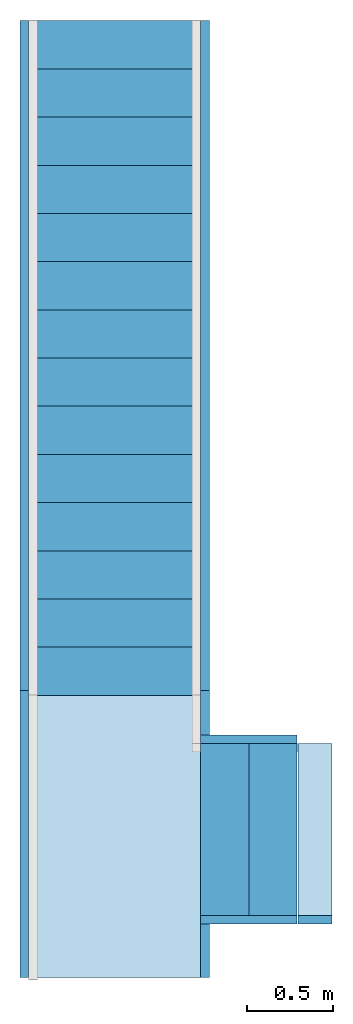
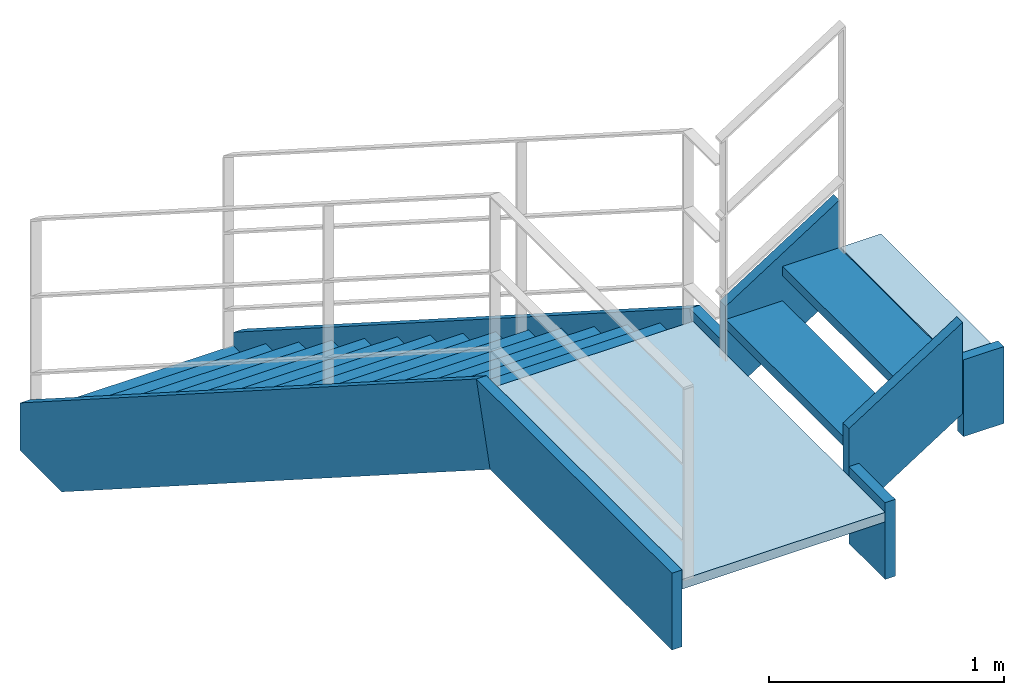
# One storey, part 1 of 2: 8 members, 2 slabs, 2 stair flights, 1 element without a shape of its own.
"""IFC2X3 building model written with IfcOpenShell, lengths in centimetres."""

import ifcopenshell
import ifcopenshell.guid

model = None  # the IFC model being written
_history = None  # IfcOwnerHistory: only IFC2X3 demands one
_inside = {}  # id of a spatial element -> (the spatial element, [elements in it])
_under = {}  # id of a project, library or spatial element -> (it, [spatial elements below it])
_declared = {}  # id of a project -> (the project, [libraries it declares])
_typed = {}  # id of a type object -> (the type object, [elements of that type])
_made_of = {}  # id of a material, layer set ... -> (it, [elements and type objects made of it])


def new_model(schema):
    """Start an empty IFC model of exactly this schema.

    Asked for "IFC4X3", IfcOpenShell would pick the latest addendum, in which some entities
    have other attributes; the version numbers below select the first issue.
    IFC2X3 requires an IfcOwnerHistory on every rooted entity: one is made here for all.
    """
    global model, _history
    if schema == "IFC4X3":
        model = ifcopenshell.file(schema_version=(4, 3, 0, 0))
    else:
        model = ifcopenshell.file(schema=schema)
    _inside.clear()
    _under.clear()
    _declared.clear()
    _typed.clear()
    _made_of.clear()
    _history = None
    if model.schema == "IFC2X3":
        org = make("IfcOrganization", Name="unknown")
        user = make(
            "IfcPersonAndOrganization",
            ThePerson=make("IfcPerson", FamilyName="unknown"),
            TheOrganization=org,
        )
        app = make(
            "IfcApplication",
            ApplicationDeveloper=org,
            Version="unknown",
            ApplicationFullName="unknown",
            ApplicationIdentifier="unknown",
        )
        _history = make(
            "IfcOwnerHistory",
            OwningUser=user,
            OwningApplication=app,
            ChangeAction="ADDED",
            CreationDate=0,
        )
    return model


def make(cls, **values):
    """One entity of the class cls with the attributes given. An attribute that is None is left unset."""
    return model.create_entity(
        cls, **{name: value for name, value in values.items() if value is not None}
    )


def entity(cls, *values):
    """Any entity or typed value of the class cls, its attributes in the order of the schema. None: left unset."""
    e = model.create_entity(cls)
    for i, value in enumerate(values):
        if value is not None:
            e[i] = value
    return e


def rooted(cls, **values):
    """An entity with a GlobalId (a new one), such as an element, a storey or a relation."""
    return make(cls, GlobalId=ifcopenshell.guid.new(), OwnerHistory=_history, **values)


def si_unit(unit_type, name, prefix=None):
    """IfcSIUnit, for example si_unit("LENGTHUNIT", "METRE", prefix="MILLI")."""
    return make("IfcSIUnit", UnitType=unit_type, Prefix=prefix, Name=name)


def converted_unit(unit_type, name, factor, base, dimensions=None, offset=None):
    """IfcConversionBasedUnit, such as the inch: factor (a typed value) times the base unit."""
    return make(
        "IfcConversionBasedUnit"
        if offset is None
        else "IfcConversionBasedUnitWithOffset",
        ConversionOffset=offset,
        Dimensions=None
        if dimensions is None
        else entity("IfcDimensionalExponents", *dimensions),
        UnitType=unit_type,
        Name=name,
        ConversionFactor=make(
            "IfcMeasureWithUnit", ValueComponent=factor, UnitComponent=base
        ),
    )


def derived_unit(unit_type, elements):
    """IfcDerivedUnit: a product of units, each with its exponent."""
    return make(
        "IfcDerivedUnit",
        Elements=[
            make("IfcDerivedUnitElement", Unit=unit, Exponent=power)
            for unit, power in elements
        ],
        UnitType=unit_type,
    )


def assignment(units):
    """IfcUnitAssignment: the units of a project."""
    return None if units is None else make("IfcUnitAssignment", Units=units)


def point(xyz):
    """IfcCartesianPoint."""
    return None if xyz is None else make("IfcCartesianPoint", Coordinates=xyz)


def direction(xyz):
    """IfcDirection."""
    return None if xyz is None else make("IfcDirection", DirectionRatios=xyz)


def frame(location, z_axis=None, x_axis=None):
    """IfcAxis2Placement3D, a coordinate frame: its origin and axes. An axis left out is left unset."""
    return make(
        "IfcAxis2Placement3D",
        Location=point(location),
        Axis=direction(z_axis),
        RefDirection=direction(x_axis),
    )


def frame_2d(location, x_axis=None):
    """IfcAxis2Placement2D, a coordinate frame in the plane: its origin and x axis."""
    return make(
        "IfcAxis2Placement2D", Location=point(location), RefDirection=direction(x_axis)
    )


def origin():
    """The frame at (0, 0, 0) with its axes left unset."""
    return frame((0.0, 0.0, 0.0))


def origin_2d_with_axis():
    """The frame at (0, 0) in the plane with the x axis (1, 0) written out."""
    return frame_2d((0.0, 0.0), x_axis=(1.0, 0.0))


def place(relative_to, where):
    """IfcLocalPlacement: puts the frame where relative to a parent placement (None: the world)."""
    return make(
        "IfcLocalPlacement", PlacementRelTo=relative_to, RelativePlacement=where
    )


def context(
    kind, dimensions, precision=None, world=None, true_north=None, identifier=None
):
    """IfcGeometricRepresentationContext, for example the 3D "Model" context."""
    return make(
        "IfcGeometricRepresentationContext",
        ContextIdentifier=identifier,
        ContextType=kind,
        CoordinateSpaceDimension=dimensions,
        Precision=precision,
        WorldCoordinateSystem=world,
        TrueNorth=true_north,
    )


def subcontext(parent, identifier, kind, view, scale=None):
    """IfcGeometricRepresentationSubContext, for example "Body" below "Model"."""
    return make(
        "IfcGeometricRepresentationSubContext",
        ContextIdentifier=identifier,
        ContextType=kind,
        ParentContext=parent,
        TargetScale=scale,
        TargetView=view,
    )


def project(units=None, contexts=None):
    """IfcProject with its units and contexts."""
    return rooted(
        "IfcProject",
        Name="project",
        RepresentationContexts=contexts,
        UnitsInContext=assignment(units),
    )


def spatial(cls, under=None, at=None, **own):
    """A site, building, storey or space (cls), placed at a placement, below another one or the project."""
    s = rooted(cls, ObjectPlacement=at, **own)
    if under is not None:
        _under.setdefault(under.id(), (under, []))[1].append(s)
    return s


def polyline(points):
    """IfcPolyline through the points."""
    return make("IfcPolyline", Points=[point(p) for p in points])


def profile(cls, at=None, kind="AREA", **sizes):
    """A parametric profile (cls). Its sizes go by their IFC names, for example OverallWidth=200.0."""
    return make(cls, ProfileType=kind, Position=at, **sizes)


def rectangle(**sizes):
    """IfcRectangleProfileDef."""
    return profile("IfcRectangleProfileDef", **sizes)


def outline(outer, holes=None, kind="AREA"):
    """IfcArbitraryClosedProfileDef: a profile drawn as a closed curve; with holes, ...WithVoids."""
    if holes is None:
        return make("IfcArbitraryClosedProfileDef", ProfileType=kind, OuterCurve=outer)
    return make(
        "IfcArbitraryProfileDefWithVoids",
        ProfileType=kind,
        OuterCurve=outer,
        InnerCurves=holes,
    )


def extrude(swept, where, along, depth):
    """IfcExtrudedAreaSolid: the profile swept, set in the frame where, extruded along a direction by depth."""
    return make(
        "IfcExtrudedAreaSolid",
        SweptArea=swept,
        Position=where,
        ExtrudedDirection=direction(along),
        Depth=depth,
    )


def shape(context_of_items, identifier, shape_type, items):
    """IfcShapeRepresentation: the items that make up one representation, for example the "Body"."""
    return make(
        "IfcShapeRepresentation",
        ContextOfItems=context_of_items,
        RepresentationIdentifier=identifier,
        RepresentationType=shape_type,
        Items=items,
    )


def made_of(thing, what):
    """Note that an element or type object is made of a material, layer set ...; save() writes the relation."""
    if what is not None:
        _made_of.setdefault(what.id(), (what, []))[1].append(thing)
    return thing


def type_object(cls, material=None, **own):
    """A type object (cls), such as IfcWallType, which elements share."""
    return made_of(rooted(cls, **own), material)


def element(
    cls,
    number,
    at=None,
    inside=None,
    cuts=None,
    type_object=None,
    material=None,
    context=None,
    identifier="Body",
    shape_type=None,
    held_by="IfcProductDefinitionShape",
    body=None,
    shapes=None,
    **own,
):
    """One element of the class cls, such as IfcWall. Its Tag is "e" and its number.

    at: its placement. inside: the storey or other place that contains it. cuts: it is an
    opening in that element (IfcRelVoidsElement). A single representation is given by context,
    identifier, shape_type and body (its items); several are given by shapes. held_by: the class
    of the entity that holds the representations. save() writes the other relations.
    """
    e = rooted(cls, Tag="e%d" % number, ObjectPlacement=at, **own)
    if body is not None:
        shapes = [shape(context, identifier, shape_type, body)]
    if shapes is not None:
        e.Representation = make(held_by, Representations=shapes)
    if inside is not None:
        _inside.setdefault(inside.id(), (inside, []))[1].append(e)
    if cuts is not None:
        rooted(
            "IfcRelVoidsElement", RelatingBuildingElement=cuts, RelatedOpeningElement=e
        )
    if type_object is not None:
        _typed.setdefault(type_object.id(), (type_object, []))[1].append(e)
    return made_of(e, material)


def aggregate(whole, parts):
    """IfcRelAggregates: a whole, such as a stair, and the parts it consists of."""
    return rooted("IfcRelAggregates", RelatingObject=whole, RelatedObjects=parts)


def save(model, path):
    """Write the relations noted so far, then the file.

    IfcRelAggregates (storeys below a building ...), IfcRelContainedInSpatialStructure (elements
    in a storey), IfcRelDefinesByType, IfcRelAssociatesMaterial and IfcRelDeclares: one each for
    every whole, place, type object, material and project.
    """
    for whole, parts in _under.values():
        aggregate(whole, parts)
    for where, things in _inside.values():
        rooted(
            "IfcRelContainedInSpatialStructure",
            RelatedElements=things,
            RelatingStructure=where,
        )
    for kind, things in _typed.values():
        rooted("IfcRelDefinesByType", RelatedObjects=things, RelatingType=kind)
    for what, things in _made_of.values():
        rooted("IfcRelAssociatesMaterial", RelatedObjects=things, RelatingMaterial=what)
    for by, libraries in _declared.values():
        rooted("IfcRelDeclares", RelatingContext=by, RelatedDefinitions=libraries)
    model.write(path)


model = new_model("IFC2X3")

# Units and contexts
model_context = context("Model", 3, precision=0.001, world=origin(), true_north=direction((6.12303176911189e-17, 1.0)))
body_context = subcontext(model_context, "Body", "Model", "MODEL_VIEW")
ifc_project = project(units=[si_unit("LENGTHUNIT", "METRE", prefix="CENTI"), si_unit("AREAUNIT", "SQUARE_METRE"), si_unit("VOLUMEUNIT", "CUBIC_METRE"), converted_unit("PLANEANGLEUNIT", "DEGREE", entity("IfcRatioMeasure", 0.0174532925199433), si_unit("PLANEANGLEUNIT", "RADIAN"), dimensions=[0, 0, 0, 0, 0, 0, 0]), si_unit("MASSUNIT", "GRAM", prefix="KILO"), derived_unit("MASSDENSITYUNIT", [(si_unit("MASSUNIT", "GRAM", prefix="KILO"), 1), (si_unit("LENGTHUNIT", "METRE"), -3)]), si_unit("TIMEUNIT", "SECOND"), si_unit("FREQUENCYUNIT", "HERTZ"), si_unit("THERMODYNAMICTEMPERATUREUNIT", "DEGREE_CELSIUS"), derived_unit("THERMALTRANSMITTANCEUNIT", [(si_unit("MASSUNIT", "GRAM", prefix="KILO"), 1), (si_unit("THERMODYNAMICTEMPERATUREUNIT", "KELVIN"), -1), (si_unit("TIMEUNIT", "SECOND"), -3)]), derived_unit("VOLUMETRICFLOWRATEUNIT", [(si_unit("LENGTHUNIT", "METRE"), 3), (si_unit("TIMEUNIT", "SECOND"), -1)]), si_unit("ELECTRICCURRENTUNIT", "AMPERE"), si_unit("ELECTRICVOLTAGEUNIT", "VOLT"), si_unit("POWERUNIT", "WATT"), si_unit("FORCEUNIT", "NEWTON", prefix="KILO"), si_unit("ILLUMINANCEUNIT", "LUX"), si_unit("LUMINOUSFLUXUNIT", "LUMEN"), si_unit("LUMINOUSINTENSITYUNIT", "CANDELA"), derived_unit("USERDEFINED", [(si_unit("MASSUNIT", "GRAM", prefix="KILO"), -1), (si_unit("LENGTHUNIT", "METRE"), -2), (si_unit("TIMEUNIT", "SECOND"), 3), (si_unit("LUMINOUSFLUXUNIT", "LUMEN"), 1)]), derived_unit("LINEARVELOCITYUNIT", [(si_unit("LENGTHUNIT", "METRE"), 1), (si_unit("TIMEUNIT", "SECOND"), -1)]), si_unit("PRESSUREUNIT", "PASCAL"), derived_unit("USERDEFINED", [(si_unit("LENGTHUNIT", "METRE"), -2), (si_unit("MASSUNIT", "GRAM", prefix="KILO"), 1), (si_unit("TIMEUNIT", "SECOND"), -2)])], contexts=[model_context])

# Site, building, storey
site_placement = place(None, frame((-2781.94577612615, 7442.24238424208, 0.0)))
site = spatial("IfcSite", under=ifc_project, at=site_placement, Name="Default", CompositionType="ELEMENT")
building_placement = place(site_placement, origin())
building = spatial("IfcBuilding", under=site, at=building_placement, CompositionType="ELEMENT")
storey_placement = place(building_placement, frame((0.0, 0.0, 349.0)))
storey = spatial("IfcBuildingStorey", under=building, at=storey_placement, Name="TR - TECHNIQUE RDC", CompositionType="ELEMENT", Elevation=349.0)

# Stair, members, slabs, stair flights
stair_placement = place(storey_placement, origin())
stair = element("IfcStair", 1, at=stair_placement, inside=storey, Name="Escalier assemblé:Escalier", ObjectType="Escalier assemblé:Escalier assemblé", ShapeType="NOTDEFINED")
member_type = type_object("IfcMemberType", Name="Limon à la française:Limon à la française - 50 mm", PredefinedType="STRINGER")
member_1_placement = place(stair_placement, origin())
member_1 = element("IfcMember", 2, at=member_1_placement, type_object=member_type, Name="Escalier assemblé:Escalier:1886925 Stringer 1", ObjectType="Limon à la française:Limon à la française - 50 mm", context=body_context, shape_type="SweptSolid", body=[
    extrude(outline(polyline([(-183.07665144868, -20.1571141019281), (278.674943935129, -20.1571141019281), (266.995602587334, 19.8428858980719), (-166.247883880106, 19.842885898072), (-196.346011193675, 0.628456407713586), (-183.07665144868, -20.1571141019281)])), frame((-10488.3647381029, -3834.65938982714, 106.182001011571), z_axis=(1.0, 0.0, 0.0), x_axis=(0.0, -0.842885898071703, 0.538092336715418)), (0.0, 0.0, 1.0), 5.00000000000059),
])
member_2_placement = place(stair_placement, origin())
member_2 = element("IfcMember", 3, at=member_2_placement, type_object=member_type, Name="Escalier assemblé:Escalier:1886925 Stringer 2", ObjectType="Limon à la française:Limon à la française - 50 mm", context=body_context, shape_type="SweptSolid", body=[
    extrude(outline(polyline([(-183.076651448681, -20.1571141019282), (278.674943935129, -20.1571141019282), (266.995602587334, 19.8428858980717), (-166.247883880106, 19.8428858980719), (-196.346011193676, 0.628456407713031), (-183.076651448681, -20.1571141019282)])), frame((-10593.3647381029, -3834.65938982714, 106.182001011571), z_axis=(1.0, 0.0, 0.0), x_axis=(0.0, -0.842885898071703, 0.538092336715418)), (0.0, 0.0, 1.0), 5.0000000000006),
])
member_3_placement = place(stair_placement, origin())
member_3 = element("IfcMember", 4, at=member_3_placement, type_object=member_type, Name="Escalier assemblé:Escalier:1886925 Stringer 3", ObjectType="Limon à la française:Limon à la française - 50 mm", context=body_context, shape_type="SweptSolid", body=[
    extrude(outline(polyline([(-20.4513485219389, -20.0), (45.9870628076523, -20.0), (20.4513485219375, 20.0), (-45.9870628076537, 20.0), (-20.4513485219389, -20.0)])), frame((-10460.3647381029, -4089.50027342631, 286.932001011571), z_axis=(0.0, 1.0, 0.0), x_axis=(0.842885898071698, 0.0, 0.538092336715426)), (0.0, 0.0, 1.0), 4.99999999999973),
])
member_4_placement = place(stair_placement, origin())
member_4 = element("IfcMember", 5, at=member_4_placement, type_object=member_type, Name="Escalier assemblé:Escalier:1886925 Stringer 4", ObjectType="Limon à la française:Limon à la française - 50 mm", context=body_context, shape_type="SweptSolid", body=[
    extrude(outline(polyline([(-20.4513485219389, -20.0), (45.9870628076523, -20.0), (20.4513485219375, 20.0), (-45.9870628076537, 20.0), (-20.4513485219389, -20.0)])), frame((-10460.3647381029, -4194.50027342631, 286.932001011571), z_axis=(0.0, 1.0, 0.0), x_axis=(0.842885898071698, 0.0, 0.538092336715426)), (0.0, 0.0, 1.0), 4.99999999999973),
])
member_5_placement = place(stair_placement, origin())
member_5 = element("IfcMember", 6, at=member_5_placement, type_object=member_type, Name="Escalier assemblé:Escalier:1886925 Stringer 5", ObjectType="Limon à la française:Limon à la française - 50 mm", context=body_context, shape_type="SweptSolid", body=[
    extrude(outline(polyline([(-86.3178812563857, -20.0), (80.4782105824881, -20.0), (80.4782105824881, 20.0), (-74.6385399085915, 20.0), (-86.3178812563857, -20.0)])), frame((-10593.3647381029, -4145.02206284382, 253.125), z_axis=(1.0, 0.0, 0.0), x_axis=(0.0, -1.0, 0.0)), (0.0, 0.0, 1.0), 5.0000000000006),
])
member_6_placement = place(stair_placement, origin())
member_6 = element("IfcMember", 7, at=member_6_placement, type_object=member_type, Name="Escalier assemblé:Escalier:1886925 Stringer 6", ObjectType="Limon à la française:Limon à la française - 50 mm", context=body_context, shape_type="SweptSolid", body=[
    extrude(rectangle(XDim=30.999999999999, YDim=5.0000000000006, at=frame_2d((4.33431068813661e-13, 8.66418048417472e-13), x_axis=(1.0, 0.0))), frame((-10485.8647381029, -4210.00027342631, 233.125), z_axis=(0.0, 0.0, 1.0), x_axis=(0.0, 1.0, 0.0)), (0.0, 0.0, 1.0), 40.0),
])
member_7_placement = place(stair_placement, origin())
member_7 = element("IfcMember", 8, at=member_7_placement, type_object=member_type, Name="Escalier assemblé:Escalier:1886925 Stringer 7", ObjectType="Limon à la française:Limon à la française - 50 mm", context=body_context, shape_type="SweptSolid", body=[
    extrude(outline(polyline([(-9.97821058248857, -20.0), (4.13853990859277, -20.0), (15.817881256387, 20.0), (-9.97821058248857, 20.0), (-9.97821058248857, -20.0)])), frame((-10488.3647381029, -4074.52206284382, 253.125), z_axis=(1.0, 0.0, 0.0), x_axis=(0.0, 1.0, 0.0)), (0.0, 0.0, 1.0), 5.0000000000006),
])
member_8_placement = place(stair_placement, origin())
member_8 = element("IfcMember", 9, at=member_8_placement, type_object=member_type, Name="Escalier assemblé:Escalier:1886925 Stringer 8", ObjectType="Limon à la française:Limon à la française - 50 mm", context=body_context, shape_type="SweptSolid", body=[
    extrude(rectangle(XDim=20.0000000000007, YDim=4.99999999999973, at=frame_2d((8.66862137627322e-13, -4.33209024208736e-13), x_axis=(1.0, 0.0))), frame((-10421.9647381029, -4192.00027342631, 268.875)), (0.0, 0.0, 1.0), 40.0),
])
slab_1_placement = place(stair_placement, origin())
slab_1 = element("IfcSlab", 10, at=slab_1_placement, Name="Escalier assemblé:Escalier:1886925 Landing 1", ObjectType="Palier non-monobloc:Palier non-monobloc", PredefinedType="LANDING", context=body_context, shape_type="SweptSolid", body=[
    extrude(rectangle(XDim=163.999999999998, YDim=100.000000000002, at=frame_2d((-1.33333333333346, 16.6666666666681), x_axis=(1.0, 0.0))), frame((-10521.6980714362, -4142.16694009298, 263.125), z_axis=(0.0, 0.0, 1.0), x_axis=(0.0, 1.0, 0.0)), (0.0, 0.0, 1.0), 4.99999999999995),
])
slab_2_placement = place(stair_placement, origin())
slab_2 = element("IfcSlab", 11, at=slab_2_placement, Name="Escalier assemblé:Escalier:1886925 Landing 2", ObjectType="Palier non-monobloc:Palier non-monobloc", PredefinedType="LANDING", context=body_context, shape_type="SweptSolid", body=[
    extrude(rectangle(XDim=20.0000000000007, YDim=99.9999999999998, at=frame_2d((-8.66862137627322e-13, 0.0), x_axis=(1.0, 0.0))), frame((-10421.9647381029, -4139.50027342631, 298.875), z_axis=(0.0, 0.0, 1.0), x_axis=(-1.0, 0.0, 0.0)), (0.0, 0.0, 1.0), 4.99999999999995),
])
stair_flight_1_placement = place(stair_placement, origin())
stair_flight_1 = element("IfcStairFlight", 12, at=stair_flight_1_placement, Name="Escalier assemblé:Escalier:1886925 Run 1", ObjectType="Volée non-monobloc:Marche 50 mm Contremarche 13 mm", NumberOfRiser=15, NumberOfTreads=14, RiserHeight=0.586450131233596, TreadLength=0.918635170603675, context=body_context, shape_type="SweptSolid", body=[
    extrude(rectangle(XDim=28.0000000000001, YDim=100.000000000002, at=frame_2d((2.16715534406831e-13, 0.0), x_axis=(1.0, 0.0))), frame((-10538.3647381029, -3683.50027342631, 12.875), z_axis=(0.0, 0.0, 1.0), x_axis=(0.0, 1.0, 0.0)), (0.0, 0.0, 1.0), 5.0),
    extrude(rectangle(XDim=28.0000000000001, YDim=100.000000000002, at=frame_2d((2.16715534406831e-13, 0.0), x_axis=(1.0, 0.0))), frame((-10538.3647381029, -3711.50027342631, 30.75), z_axis=(0.0, 0.0, 1.0), x_axis=(0.0, 1.0, 0.0)), (0.0, 0.0, 1.0), 5.0),
    extrude(rectangle(XDim=28.0000000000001, YDim=100.000000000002, at=frame_2d((-2.16715534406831e-13, 0.0), x_axis=(1.0, 0.0))), frame((-10538.3647381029, -3739.50027342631, 48.625), z_axis=(0.0, 0.0, 1.0), x_axis=(0.0, 1.0, 0.0)), (0.0, 0.0, 1.0), 5.0),
    extrude(rectangle(XDim=28.0000000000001, YDim=100.000000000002, at=frame_2d((-2.16715534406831e-13, 0.0), x_axis=(1.0, 0.0))), frame((-10538.3647381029, -3767.50027342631, 66.5), z_axis=(0.0, 0.0, 1.0), x_axis=(0.0, 1.0, 0.0)), (0.0, 0.0, 1.0), 5.0),
    extrude(rectangle(XDim=28.0000000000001, YDim=100.000000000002, at=frame_2d((-2.16715534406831e-13, 0.0), x_axis=(1.0, 0.0))), frame((-10538.3647381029, -3795.50027342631, 84.375), z_axis=(0.0, 0.0, 1.0), x_axis=(0.0, 1.0, 0.0)), (0.0, 0.0, 1.0), 5.0),
    extrude(rectangle(XDim=28.0000000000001, YDim=100.000000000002, at=frame_2d((-2.16715534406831e-13, 0.0), x_axis=(1.0, 0.0))), frame((-10538.3647381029, -3823.50027342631, 102.25), z_axis=(0.0, 0.0, 1.0), x_axis=(0.0, 1.0, 0.0)), (0.0, 0.0, 1.0), 5.0),
    extrude(rectangle(XDim=28.0000000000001, YDim=100.000000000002, at=frame_2d((-2.16715534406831e-13, 0.0), x_axis=(1.0, 0.0))), frame((-10538.3647381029, -3851.50027342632, 120.125), z_axis=(0.0, 0.0, 1.0), x_axis=(0.0, 1.0, 0.0)), (0.0, 0.0, 1.0), 5.0),
    extrude(rectangle(XDim=28.0000000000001, YDim=100.000000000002, at=frame_2d((-2.16715534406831e-13, 0.0), x_axis=(1.0, 0.0))), frame((-10538.3647381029, -3879.50027342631, 138.0), z_axis=(0.0, 0.0, 1.0), x_axis=(0.0, 1.0, 0.0)), (0.0, 0.0, 1.0), 5.0),
    extrude(rectangle(XDim=28.0000000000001, YDim=100.000000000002, at=frame_2d((-2.16715534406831e-13, 0.0), x_axis=(1.0, 0.0))), frame((-10538.3647381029, -3907.50027342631, 155.875), z_axis=(0.0, 0.0, 1.0), x_axis=(0.0, 1.0, 0.0)), (0.0, 0.0, 1.0), 4.99999999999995),
    extrude(rectangle(XDim=28.0000000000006, YDim=100.000000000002, at=origin_2d_with_axis()), frame((-10538.3647381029, -3935.50027342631, 173.75), z_axis=(0.0, 0.0, 1.0), x_axis=(0.0, 1.0, 0.0)), (0.0, 0.0, 1.0), 4.99999999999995),
    extrude(rectangle(XDim=28.0000000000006, YDim=100.000000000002, at=origin_2d_with_axis()), frame((-10538.3647381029, -3963.50027342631, 191.625), z_axis=(0.0, 0.0, 1.0), x_axis=(0.0, 1.0, 0.0)), (0.0, 0.0, 1.0), 4.99999999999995),
    extrude(rectangle(XDim=27.9999999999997, YDim=100.000000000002, at=frame_2d((4.33431068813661e-13, 0.0), x_axis=(1.0, 0.0))), frame((-10538.3647381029, -3991.50027342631, 209.5), z_axis=(0.0, 0.0, 1.0), x_axis=(0.0, 1.0, 0.0)), (0.0, 0.0, 1.0), 4.99999999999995),
    extrude(rectangle(XDim=28.0000000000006, YDim=100.000000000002, at=origin_2d_with_axis()), frame((-10538.3647381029, -4019.50027342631, 227.375), z_axis=(0.0, 0.0, 1.0), x_axis=(0.0, 1.0, 0.0)), (0.0, 0.0, 1.0), 4.99999999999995),
    extrude(rectangle(XDim=28.0000000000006, YDim=100.000000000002, at=origin_2d_with_axis()), frame((-10538.3647381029, -4047.50027342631, 245.25), z_axis=(0.0, 0.0, 1.0), x_axis=(0.0, 1.0, 0.0)), (0.0, 0.0, 1.0), 4.99999999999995),
])
stair_flight_2_placement = place(stair_placement, origin())
stair_flight_2 = element("IfcStairFlight", 13, at=stair_flight_2_placement, Name="Escalier assemblé:Escalier:1886925 Run 2", ObjectType="Volée non-monobloc:Marche 50 mm Contremarche 13 mm", NumberOfRiser=3, NumberOfTreads=2, RiserHeight=0.586450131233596, TreadLength=0.918635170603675, context=body_context, shape_type="SweptSolid", body=[
    extrude(rectangle(XDim=28.0000000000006, YDim=99.9999999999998, at=origin_2d_with_axis()), frame((-10474.3647381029, -4139.50027342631, 281.0), z_axis=(0.0, 0.0, 1.0), x_axis=(-1.0, 0.0, 0.0)), (0.0, 0.0, 1.0), 4.99999999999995),
    extrude(rectangle(XDim=28.0000000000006, YDim=99.9999999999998, at=origin_2d_with_axis()), frame((-10446.3647381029, -4139.50027342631, 298.875), z_axis=(0.0, 0.0, 1.0), x_axis=(-1.0, 0.0, 0.0)), (0.0, 0.0, 1.0), 4.99999999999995),
])
aggregate(stair, [stair_flight_1, stair_flight_2, slab_1, slab_2, member_1, member_2, member_3, member_4, member_5, member_6, member_7, member_8])

save(model, "model.ifc")
